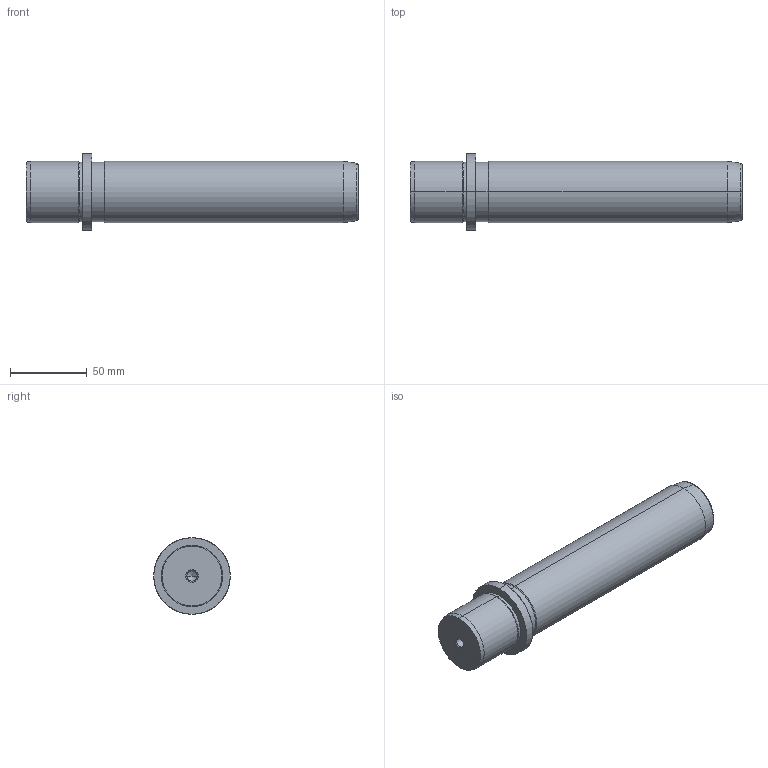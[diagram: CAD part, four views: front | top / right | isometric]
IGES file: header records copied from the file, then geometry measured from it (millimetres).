
Start section: START RECORD GO HERE.
Global section: file name: 719-40x180.igs; native system: DASSAULT SYSTEMES CATIA V5 R20 - www.3ds.com; preprocessor: CATIA Version 5 Release 20 ; author: Utente; organization: NB04-ASUS; date: 20210103.163048; units: millimetre
Bounding box: 217 x 50 x 50 mm (x, y, z)
Surface area: 32235.3 mm2 (no closed solid volume)
Topology: 0 solids, 0 shells, 36 faces, 196 edges, 192 vertices
Faces by surface type: revolution 32, plane 4
